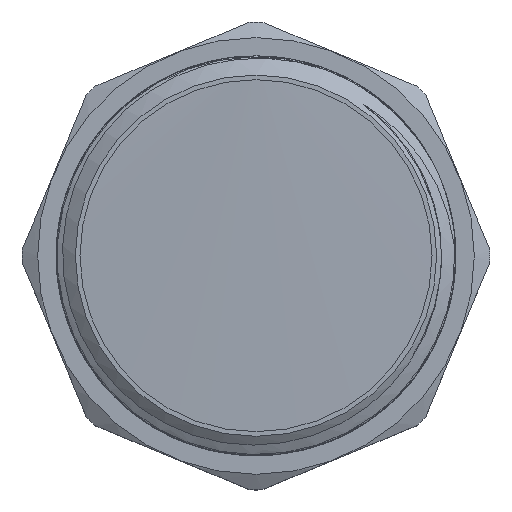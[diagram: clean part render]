
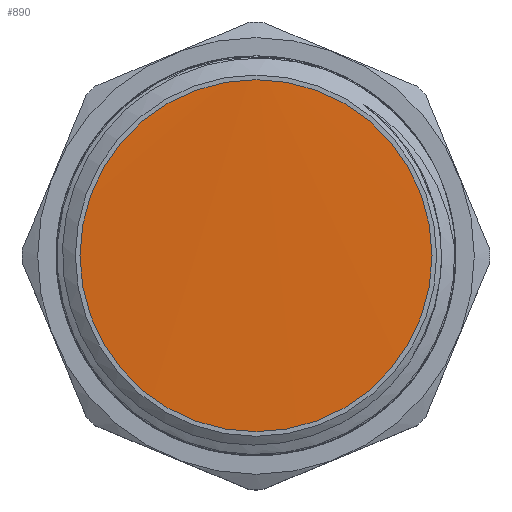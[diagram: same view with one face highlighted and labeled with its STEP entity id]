
A CAD part, top view. The second image highlights one B-rep face of the part: STEP entity #890.
In plain terms, the highlighted cylindrical face has radius 22.425 mm (diameter 44.85 mm), a full revolution.
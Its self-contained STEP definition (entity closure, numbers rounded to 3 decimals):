
#98=FACE_OUTER_BOUND('',#150,.T.);
#150=EDGE_LOOP('',(#592,#593,#594));
#210=B_SPLINE_CURVE_WITH_KNOTS('',3,(#1479,#1480,#1481,#1482,#1483,#1484,
#1485,#1486,#1487,#1488,#1489,#1490,#1491,#1492,#1493,#1494,#1495),
 .UNSPECIFIED.,.F.,.F.,(4,1,1,1,1,1,1,1,1,1,1,1,1,1,4),(15.708,
15.856,16.354,16.852,17.35,17.848,
18.346,18.843,19.341,19.839,20.337,
20.835,21.333,21.831,21.991),
 .UNSPECIFIED.);
#265=LINE('',#1207,#299);
#270=LINE('',#1478,#304);
#299=VECTOR('',#1031,22.425);
#304=VECTOR('',#1048,22.425);
#333=VERTEX_POINT('',#1205);
#334=VERTEX_POINT('',#1206);
#344=VERTEX_POINT('',#1477);
#429=EDGE_CURVE('',#333,#334,#265,.T.);
#444=EDGE_CURVE('',#344,#334,#270,.T.);
#445=EDGE_CURVE('',#344,#333,#210,.T.);
#592=ORIENTED_EDGE('',*,*,#429,.T.);
#593=ORIENTED_EDGE('',*,*,#444,.F.);
#594=ORIENTED_EDGE('',*,*,#445,.T.);
#866=CYLINDRICAL_SURFACE('',#963,22.425);
#890=ADVANCED_FACE('',(#98),#866,.T.);
#963=AXIS2_PLACEMENT_3D('',#1476,#1046,#1047);
#1031=DIRECTION('',(0.,0.,1.));
#1046=DIRECTION('center_axis',(0.,0.,1.));
#1047=DIRECTION('ref_axis',(0.,-1.,0.));
#1048=DIRECTION('',(0.,0.,-1.));
#1205=CARTESIAN_POINT('',(0.,22.425,12.459));
#1206=CARTESIAN_POINT('',(0.,22.425,14.751));
#1207=CARTESIAN_POINT('',(0.,22.425,0.));
#1476=CARTESIAN_POINT('Origin',(0.,0.,0.));
#1477=CARTESIAN_POINT('',(0.,22.425,14.759));
#1478=CARTESIAN_POINT('',(0.,22.425,0.));
#1479=CARTESIAN_POINT('Ctrl Pts',(0.001,22.424,
14.759));
#1480=CARTESIAN_POINT('Ctrl Pts',(1.109,22.425,14.741));
#1481=CARTESIAN_POINT('Ctrl Pts',(5.938,22.074,14.662));
#1482=CARTESIAN_POINT('Ctrl Pts',(14.073,18.661,14.522));
#1483=CARTESIAN_POINT('Ctrl Pts',(21.276,9.675,14.34));
#1484=CARTESIAN_POINT('Ctrl Pts',(23.314,-1.66,14.158));
#1485=CARTESIAN_POINT('Ctrl Pts',(19.691,-12.592,13.975));
#1486=CARTESIAN_POINT('Ctrl Pts',(11.287,-20.467,13.793));
#1487=CARTESIAN_POINT('Ctrl Pts',(0.142,-23.372,13.611));
#1488=CARTESIAN_POINT('Ctrl Pts',(-11.037,-20.603,13.429));
#1489=CARTESIAN_POINT('Ctrl Pts',(-19.536,-12.831,13.246));
#1490=CARTESIAN_POINT('Ctrl Pts',(-23.292,-1.944,13.064));
#1491=CARTESIAN_POINT('Ctrl Pts',(-21.392,9.415,12.882));
#1492=CARTESIAN_POINT('Ctrl Pts',(-14.299,18.489,12.7));
#1493=CARTESIAN_POINT('Ctrl Pts',(-6.121,22.037,12.559));
#1494=CARTESIAN_POINT('Ctrl Pts',(-1.2,22.425,12.478));
#1495=CARTESIAN_POINT('Ctrl Pts',(-0.001,22.424,
12.459));
